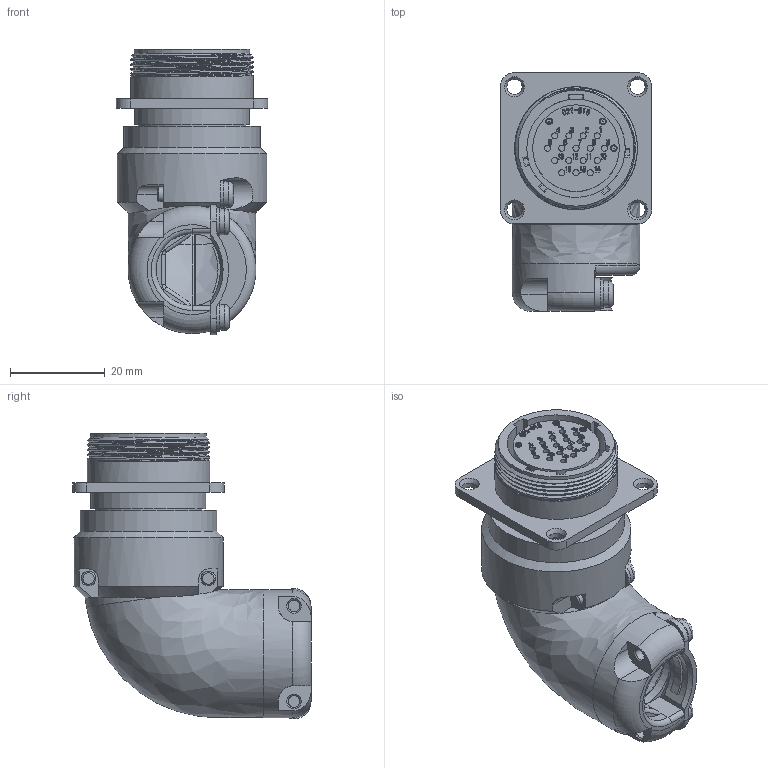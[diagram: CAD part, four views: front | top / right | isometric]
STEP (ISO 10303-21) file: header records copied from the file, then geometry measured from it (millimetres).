
FILE_DESCRIPTION (( 'STEP AP203' ), '1' );
FILE_NAME ('JMWL2116FM-D.STEP', '2021-07-14T02:07:45', ( '' ), ( '' ), 'SwSTEP 2.0', 'SolidWorks 2018', '' );
FILE_SCHEMA (( 'CONFIG_CONTROL_DESIGN' ));
Products named in the file (1): JMWL2116FM-D
Bounding box: 32 x 50.4 x 60.33 mm (x, y, z)
Volume: 22704.9 mm3; surface area: 16754.7 mm2
Topology: 1 solids, 1 shells, 1561 faces, 4222 edges, 2782 vertices
Faces by surface type: plane 713, bspline 613, cylinder 180, cone 40, torus 15
Full cylindrical faces by diameter (mm): 1.1 x19, 1.2 x1, 1.3 x16, 1.4 x4, 1.55 x16, 2.5 x2, 3 x2, 3.2 x4, 5.5 x4, 15.2 x1, 18.1 x1, 18.3 x1, 20.1 x1, 20.8 x1, 22.7 x1, 22.8 x1, 24.3 x1, 24.5 x1, 25.96 x4, 26.2 x1, 27 x1, 28.8 x1, 31.6 x1
Entity records: 71870 total; most frequent: CARTESIAN_POINT 37616, ORIENTED_EDGE 8122, DIRECTION 4915, EDGE_CURVE 4061, VERTEX_POINT 2744, VECTOR 2241, LINE 2241, EDGE_LOOP 1805
